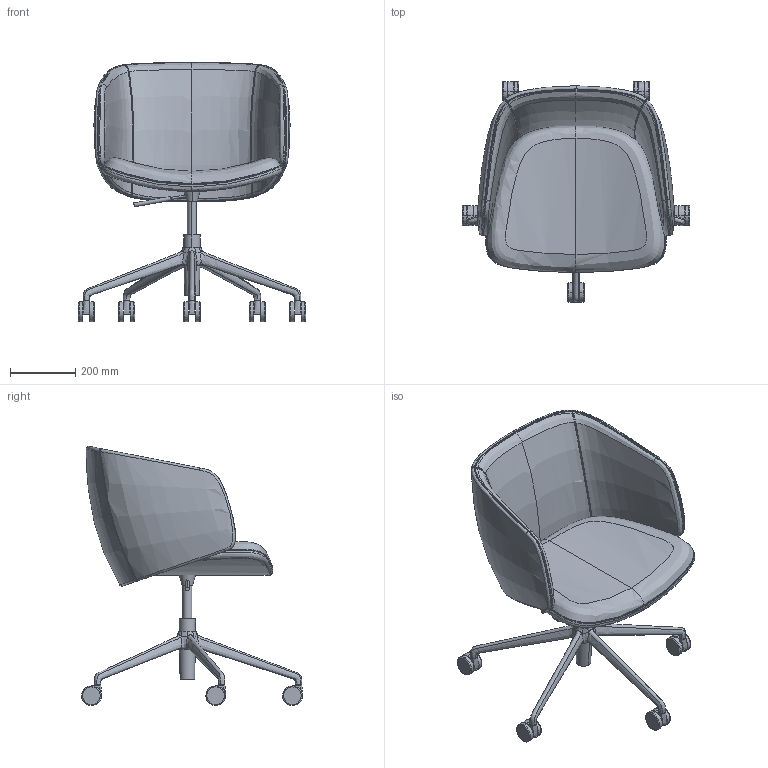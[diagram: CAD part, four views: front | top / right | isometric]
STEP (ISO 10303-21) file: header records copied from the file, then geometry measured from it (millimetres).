
FILE_DESCRIPTION(/* description */ (''),/* implementation_level */ '2;1');
FILE_NAME(/* name */ 'Winx WX 880-15',/* time_stamp */ '2021-03-30T00:52:02+02:00',/* author */ (''),/* organization */ (''),/* preprocessor_version */ 'ST-DEVELOPER v16.5',/* originating_system */ '',/* authorisation */ '');
FILE_SCHEMA (('CONFIG_CONTROL_DESIGN'));
Length unit declared in the file: millimetre
Products named in the file (1): Document
Bounding box: 696.72 x 675.54 x 792.92 mm (x, y, z)
Volume: 1465187.3 mm3; surface area: 1654006 mm2
Topology: 3 solids, 28 shells, 285 faces, 631 edges, 370 vertices
Faces by surface type: bspline 182, plane 61, cylinder 42
Entity records: 45374 total; most frequent: CARTESIAN_POINT 41595, ORIENTED_EDGE 1130, EDGE_CURVE 618, VERTEX_POINT 364, EDGE_LOOP 286, ADVANCED_FACE 285, FACE_OUTER_BOUND 285, B_SPLINE_CURVE_WITH_KNOTS 263
